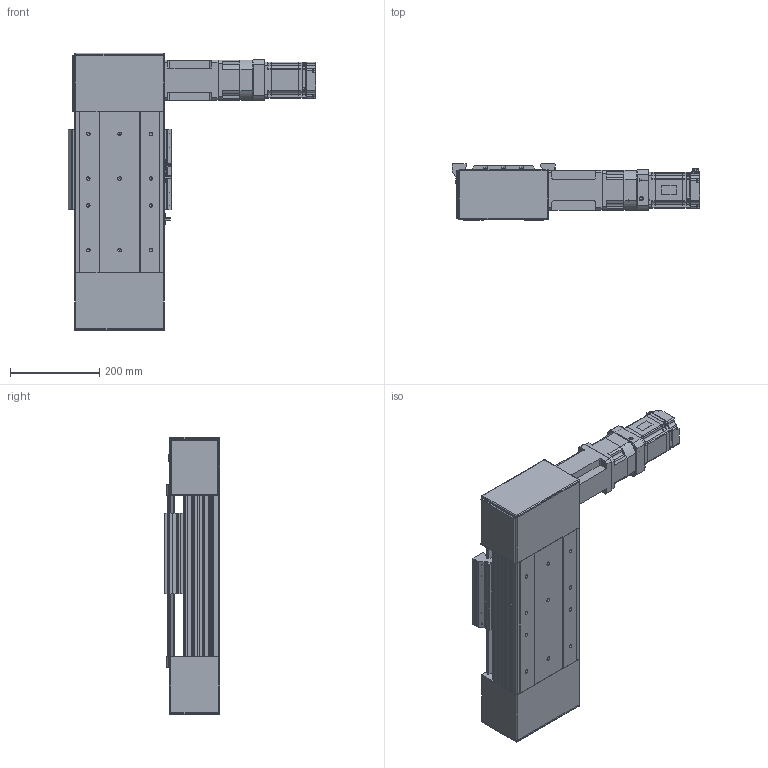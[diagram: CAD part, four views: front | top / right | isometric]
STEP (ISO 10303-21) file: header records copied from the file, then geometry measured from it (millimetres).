
FILE_DESCRIPTION (( 'STEP AP203' ), '1' );
FILE_NAME ('POB200SRN-0000-ST100-75NR00-N-I3R.STEP', '2015-10-23T07:58:15', ( '' ), ( '' ), 'SwSTEP 2.0', 'SolidWorks 2012', '' );
FILE_SCHEMA (( 'CONFIG_CONTROL_DESIGN' ));
Products named in the file (11): EE_SX672; POB200SRN-0000-ST100-75NR00-N-I3R; sgmjv_08a_a21; POB200-SENSOR Dog; POB200 Carrier; jc48c; PCB200-Idler Pulley Block S; PGX90-H-1_3; MOTOR Bracket; PCB200-Drive Pulley Block S; POB200-100ST BASE
Assembly tree (12 placements, depth 2):
  POB200SRN-0000-ST100-75NR00-N-I3R
    POB200-100ST BASE
    PCB200-Drive Pulley Block S
    PCB200-Idler Pulley Block S
    MOTOR Bracket
    jc48c
    PGX90-H-1_3
    sgmjv_08a_a21
    POB200 Carrier
    POB200-SENSOR Dog
    EE_SX672  x3
Bounding box: 553.63 x 125 x 620 mm (x, y, z)
Volume: 11437414.7 mm3; surface area: 1409206.4 mm2
Topology: 37 solids, 37 shells, 2179 faces, 5713 edges, 3678 vertices
Faces by surface type: plane 1191, cylinder 772, cone 169, bspline 35, sphere 8, torus 4
Entity records: 66176 total; most frequent: CARTESIAN_POINT 13842, DIRECTION 10845, ORIENTED_EDGE 10530, EDGE_CURVE 5265, AXIS2_PLACEMENT_3D 3722, VERTEX_POINT 3430, VECTOR 3401, LINE 3401
